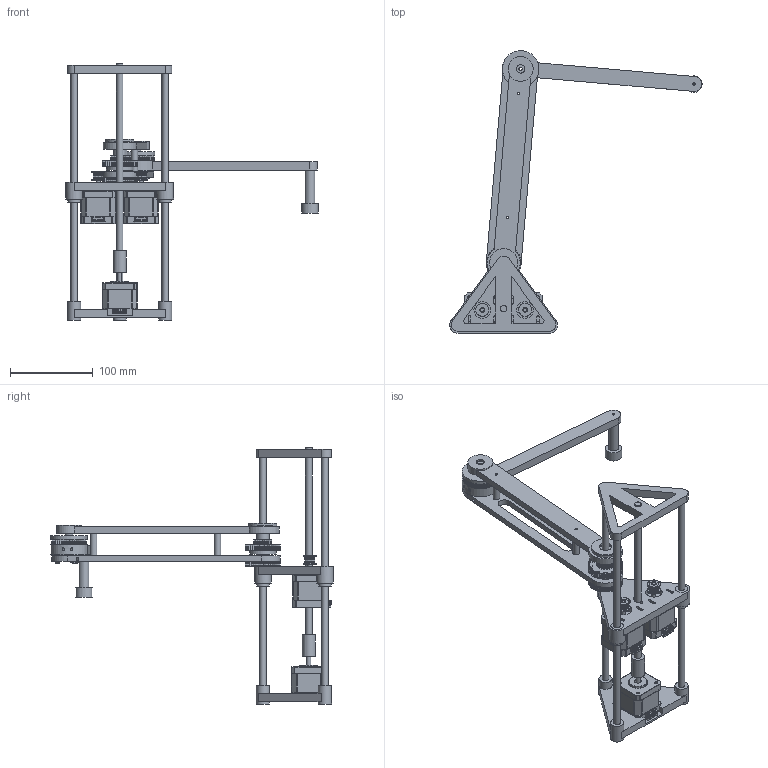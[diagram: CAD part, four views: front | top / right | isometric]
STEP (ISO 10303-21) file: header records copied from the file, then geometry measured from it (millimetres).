
FILE_DESCRIPTION(/* description */ ('','CAx-IF Rec.Pracs.---Representation and Presentation of Product Manufacturing Information (PMI)---4.0---2014-10-13'),/* implementation_level */ '2;1');
FILE_NAME(/* name */ 'asembly.step',/* time_stamp */ '2025-01-12T14:36:10+07:00',/* author */ (''),/* organization */ (''),/* preprocessor_version */ 'ST-DEVELOPER v20',/* originating_system */ 'Autodesk Translation Framework v13.20.0.188',/* authorisation */ '');
FILE_SCHEMA (('AP242_MANAGED_MODEL_BASED_3D_ENGINEERING_MIM_LF { 1 0 10303 442 1 1 4 }'));
Products named in the file (27): lapghep; Untitled; Untitled_1; Untitled_2; banhrangkhau1; Spur Gear (20 teeth); Spur Gear (40 teeth); khau2; Spur Gear (40 teeth)_1; Untitled_3; 321510; 8165; 623; banhrangkhau2; Spur Gear (40 teeth)_2; giubanhrang; LM8UU; 10168; khau3; tido; Nema 17 40mm Stepper Motor; khopnoi; vitme; Nema 17 40mm Stepper Motor_1; Nema 17 40mm Stepper Motor_2; GT2 pulley 20 teeth ; daucongtac
Assembly tree (38 placements, depth 3):
  lapghep
    Untitled
    Untitled_1  x3
    LM8UU  x5
    Untitled_2
    321510  x3
    banhrangkhau1
      Spur Gear (20 teeth)
      Spur Gear (40 teeth)
    khau2
      Spur Gear (40 teeth)_1
    Untitled_3
    8165
    623  x3
    banhrangkhau2
      Spur Gear (40 teeth)_2
    giubanhrang
    10168
    khau3
    tido  x2
    Nema 17 40mm Stepper Motor
    khopnoi
    vitme
    Nema 17 40mm Stepper Motor_1
      GT2 pulley 20 teeth 
    Nema 17 40mm Stepper Motor_2
      GT2 pulley 20 teeth 
    daucongtac
Bounding box: 304.66 x 341.02 x 309.29 mm (x, y, z)
Volume: 663229.5 mm3; surface area: 259265.8 mm2
Topology: 80 solids, 80 shells, 2662 faces, 7029 edges, 4590 vertices
Faces by surface type: plane 1093, cylinder 986, bspline 488, cone 45, sphere 30, torus 20
Full cylindrical faces by diameter (mm): 3 x27, 3.01 x12, 4 x1, 5 x3, 5.01 x2, 5.254 x9, 6.35 x24, 7.54 x3, 8 x23, 9 x2, 10 x6, 10.334 x3, 12 x1, 14 x10, 15 x25, 15.799 x4, 16 x6, 19.999 x2, 20 x4, 21.97 x3, 26 x2, 30 x1, 32 x6, 34 x1, 44 x2
Entity records: 157223 total; most frequent: CARTESIAN_POINT 97869, ORIENTED_EDGE 13066, DIRECTION 11246, EDGE_CURVE 6533, VERTEX_POINT 4261, AXIS2_PLACEMENT_3D 3990, LINE 3266, VECTOR 3266
